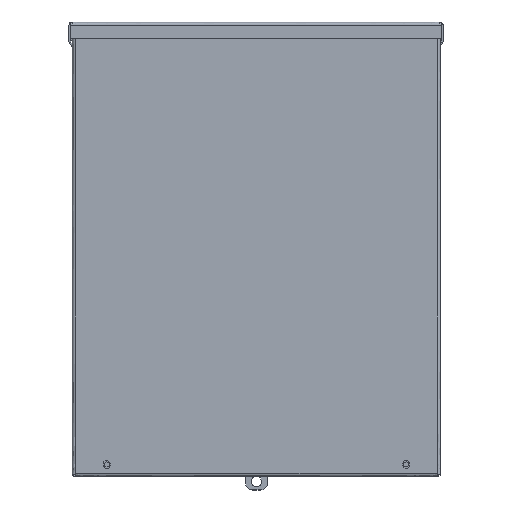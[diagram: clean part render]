
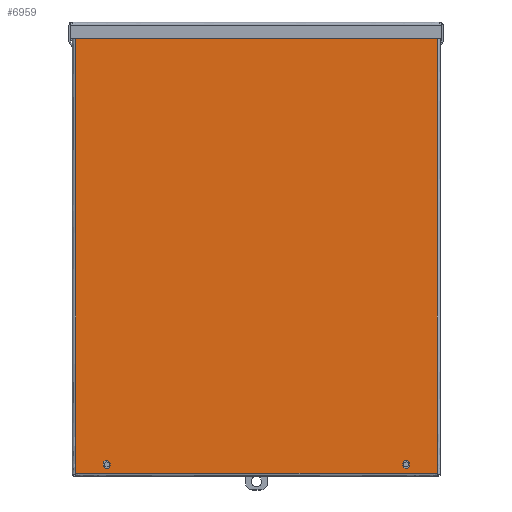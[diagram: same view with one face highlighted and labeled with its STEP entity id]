
A CAD part, top view. The second image highlights one B-rep face of the part: STEP entity #6959.
In plain terms, the highlighted free-form (B-spline) face has degree [1, 1] with [2, 2] control points.
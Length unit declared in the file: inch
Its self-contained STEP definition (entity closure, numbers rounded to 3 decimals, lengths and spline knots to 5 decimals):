
#6174=CARTESIAN_POINT('V71',(0.9855,-0.055,
   14.622));
#6175=VERTEX_POINT('V71',#6174);
#6183=CARTESIAN_POINT('V74',(1.2045,-0.055,
   14.622));
#6184=VERTEX_POINT('V74',#6183);
#6185=CARTESIAN_POINT('E88',(1.2045,-0.055,
   14.622));
#6186=CARTESIAN_POINT('E88',(1.2045,-0.055,
   14.5125));
#6187=CARTESIAN_POINT('E88',(1.095,-0.055,
   14.5125));
#6188=CARTESIAN_POINT('E88',(0.9855,-0.055,
   14.5125));
#6189=CARTESIAN_POINT('E88',(0.9855,-0.055,
   14.622));
#6197=(BOUNDED_CURVE()B_SPLINE_CURVE(2,(#6185,#6186,#6187,#6188,
   #6189),.CIRCULAR_ARC.,.F.,.U.)B_SPLINE_CURVE_WITH_KNOTS((3,2,3),
   (0.0,0.5,1.0),.UNSPECIFIED.)CURVE()
   GEOMETRIC_REPRESENTATION_ITEM()RATIONAL_B_SPLINE_CURVE((1.0,
   0.707,1.0,0.707,1.0))REPRESENTATION_ITEM(
   'E88'));
#6198=EDGE_CURVE('E88',#6184,#6175,#6197,.T.);
#6231=CARTESIAN_POINT('V73',(1.2045,-0.055,
   14.684));
#6232=VERTEX_POINT('V73',#6231);
#6233=CARTESIAN_POINT('E87',(1.2045,-0.055,
   14.684));
#6234=CARTESIAN_POINT('E87',(1.2045,-0.055,
   14.622));
#6235=QUASI_UNIFORM_CURVE('E87',1,(#6233,#6234),.POLYLINE_FORM.,.F.,
   .U.);
#6236=EDGE_CURVE('E87',#6232,#6184,#6235,.T.);
#6272=CARTESIAN_POINT('V72',(0.9855,-0.055,
   14.684));
#6273=VERTEX_POINT('V72',#6272);
#6274=CARTESIAN_POINT('E86',(0.9855,-0.055,
   14.684));
#6275=CARTESIAN_POINT('E86',(0.9855,-0.055,
   14.7935));
#6276=CARTESIAN_POINT('E86',(1.095,-0.055,
   14.7935));
#6277=CARTESIAN_POINT('E86',(1.2045,-0.055,
   14.7935));
#6278=CARTESIAN_POINT('E86',(1.2045,-0.055,
   14.684));
#6286=(BOUNDED_CURVE()B_SPLINE_CURVE(2,(#6274,#6275,#6276,#6277,
   #6278),.CIRCULAR_ARC.,.F.,.U.)B_SPLINE_CURVE_WITH_KNOTS((3,2,3),
   (0.0,0.5,1.0),.UNSPECIFIED.)CURVE()
   GEOMETRIC_REPRESENTATION_ITEM()RATIONAL_B_SPLINE_CURVE((1.0,
   0.707,1.0,0.707,1.0))REPRESENTATION_ITEM(
   'E86'));
#6287=EDGE_CURVE('E86',#6273,#6232,#6286,.T.);
#6320=CARTESIAN_POINT('E85',(0.9855,-0.055,
   14.622));
#6321=CARTESIAN_POINT('E85',(0.9855,-0.055,
   14.684));
#6322=QUASI_UNIFORM_CURVE('E85',1,(#6320,#6321),.POLYLINE_FORM.,.F.,
   .U.);
#6323=EDGE_CURVE('E85',#6175,#6273,#6322,.T.);
#6352=CARTESIAN_POINT('V67',(11.2045,-0.055,
   14.684));
#6353=VERTEX_POINT('V67',#6352);
#6361=CARTESIAN_POINT('V70',(10.9855,-0.055,
   14.684));
#6362=VERTEX_POINT('V70',#6361);
#6363=CARTESIAN_POINT('E84',(10.9855,-0.055,
   14.684));
#6364=CARTESIAN_POINT('E84',(10.9855,-0.055,
   14.7935));
#6365=CARTESIAN_POINT('E84',(11.095,-0.055,
   14.7935));
#6366=CARTESIAN_POINT('E84',(11.2045,-0.055,
   14.7935));
#6367=CARTESIAN_POINT('E84',(11.2045,-0.055,
   14.684));
#6375=(BOUNDED_CURVE()B_SPLINE_CURVE(2,(#6363,#6364,#6365,#6366,
   #6367),.CIRCULAR_ARC.,.F.,.U.)B_SPLINE_CURVE_WITH_KNOTS((3,2,3),
   (0.0,0.5,1.0),.UNSPECIFIED.)CURVE()
   GEOMETRIC_REPRESENTATION_ITEM()RATIONAL_B_SPLINE_CURVE((1.0,
   0.707,1.0,0.707,1.0))REPRESENTATION_ITEM(
   'E84'));
#6376=EDGE_CURVE('E84',#6362,#6353,#6375,.T.);
#6409=CARTESIAN_POINT('V69',(10.9855,-0.055,
   14.622));
#6410=VERTEX_POINT('V69',#6409);
#6411=CARTESIAN_POINT('E83',(10.9855,-0.055,
   14.622));
#6412=CARTESIAN_POINT('E83',(10.9855,-0.055,
   14.684));
#6413=QUASI_UNIFORM_CURVE('E83',1,(#6411,#6412),.POLYLINE_FORM.,.F.,
   .U.);
#6414=EDGE_CURVE('E83',#6410,#6362,#6413,.T.);
#6450=CARTESIAN_POINT('V68',(11.2045,-0.055,
   14.622));
#6451=VERTEX_POINT('V68',#6450);
#6452=CARTESIAN_POINT('E82',(11.2045,-0.055,
   14.622));
#6453=CARTESIAN_POINT('E82',(11.2045,-0.055,
   14.5125));
#6454=CARTESIAN_POINT('E82',(11.095,-0.055,
   14.5125));
#6455=CARTESIAN_POINT('E82',(10.9855,-0.055,
   14.5125));
#6456=CARTESIAN_POINT('E82',(10.9855,-0.055,
   14.622));
#6464=(BOUNDED_CURVE()B_SPLINE_CURVE(2,(#6452,#6453,#6454,#6455,
   #6456),.CIRCULAR_ARC.,.F.,.U.)B_SPLINE_CURVE_WITH_KNOTS((3,2,3),
   (0.0,0.5,1.0),.UNSPECIFIED.)CURVE()
   GEOMETRIC_REPRESENTATION_ITEM()RATIONAL_B_SPLINE_CURVE((1.0,
   0.707,1.0,0.707,1.0))REPRESENTATION_ITEM(
   'E82'));
#6465=EDGE_CURVE('E82',#6451,#6410,#6464,.T.);
#6498=CARTESIAN_POINT('E81',(11.2045,-0.055,
   14.684));
#6499=CARTESIAN_POINT('E81',(11.2045,-0.055,
   14.622));
#6500=QUASI_UNIFORM_CURVE('E81',1,(#6498,#6499),.POLYLINE_FORM.,.F.,
   .U.);
#6501=EDGE_CURVE('E81',#6353,#6451,#6500,.T.);
#6856=CARTESIAN_POINT('V44',(0.06,-0.055,
   14.945));
#6857=VERTEX_POINT('V44',#6856);
#6894=CARTESIAN_POINT('V45',(0.06,-0.055,
   0.));
#6895=VERTEX_POINT('V45',#6894);
#6896=CARTESIAN_POINT('E52',(0.06,-0.055,
   0.));
#6897=CARTESIAN_POINT('E52',(0.06,-0.055,
   14.945));
#6898=QUASI_UNIFORM_CURVE('E52',1,(#6896,#6897),.POLYLINE_FORM.,.F.,
   .U.);
#6899=EDGE_CURVE('E52',#6895,#6857,#6898,.T.);
#6920=CARTESIAN_POINT('F21',(12.13,-0.055,
   0.));
#6921=CARTESIAN_POINT('F21',(12.13,-0.055,
   14.945));
#6922=CARTESIAN_POINT('F21',(0.06,-0.055,
   0.));
#6923=CARTESIAN_POINT('F21',(0.06,-0.055,
   14.945));
#6924=B_SPLINE_SURFACE_WITH_KNOTS('F21',1,1,((#6920,#6922),(#6921,
   #6923)),.PLANE_SURF.,.F.,.F.,.U.,(2,2),(2,2),(
   0.0001,1.23805),(0.0001,
   0.9999),.UNSPECIFIED.);
#6925=CARTESIAN_POINT('V41',(12.13,-0.055,
   0.));
#6926=VERTEX_POINT('V41',#6925);
#6927=CARTESIAN_POINT('E80',(0.06,-0.055,
   0.0));
#6928=CARTESIAN_POINT('E80',(12.13,-0.055,
   0.0));
#6929=QUASI_UNIFORM_CURVE('E80',1,(#6927,#6928),.POLYLINE_FORM.,.F.,
   .U.);
#6930=EDGE_CURVE('E80',#6895,#6926,#6929,.T.);
#6931=ORIENTED_EDGE('E80',*,*,#6930,.T.);
#6932=CARTESIAN_POINT('V40',(12.13,-0.055,
   14.945));
#6933=VERTEX_POINT('V40',#6932);
#6934=CARTESIAN_POINT('E48',(12.13,-0.055,
   14.945));
#6935=CARTESIAN_POINT('E48',(12.13,-0.055,
   0.));
#6936=QUASI_UNIFORM_CURVE('E48',1,(#6934,#6935),.POLYLINE_FORM.,.F.,
   .U.);
#6937=EDGE_CURVE('E48',#6933,#6926,#6936,.T.);
#6938=ORIENTED_EDGE('E48',*,*,#6937,.F.);
#6939=CARTESIAN_POINT('E60',(0.06,-0.055,
   14.945));
#6940=CARTESIAN_POINT('E60',(12.13,-0.055,
   14.945));
#6941=QUASI_UNIFORM_CURVE('E60',1,(#6939,#6940),.POLYLINE_FORM.,.F.,
   .U.);
#6942=EDGE_CURVE('E60',#6857,#6933,#6941,.T.);
#6943=ORIENTED_EDGE('E60',*,*,#6942,.F.);
#6944=ORIENTED_EDGE('E52',*,*,#6899,.F.);
#6945=EDGE_LOOP('F21',(#6931,#6938,#6943,#6944));
#6946=FACE_OUTER_BOUND('F21',#6945,.T.);
#6947=ORIENTED_EDGE('E81',*,*,#6501,.T.);
#6948=ORIENTED_EDGE('E82',*,*,#6465,.T.);
#6949=ORIENTED_EDGE('E83',*,*,#6414,.T.);
#6950=ORIENTED_EDGE('E84',*,*,#6376,.T.);
#6951=EDGE_LOOP('F21',(#6947,#6948,#6949,#6950));
#6952=FACE_BOUND('F21',#6951,.T.);
#6953=ORIENTED_EDGE('E85',*,*,#6323,.T.);
#6954=ORIENTED_EDGE('E86',*,*,#6287,.T.);
#6955=ORIENTED_EDGE('E87',*,*,#6236,.T.);
#6956=ORIENTED_EDGE('E88',*,*,#6198,.T.);
#6957=EDGE_LOOP('F21',(#6953,#6954,#6955,#6956));
#6958=FACE_BOUND('F21',#6957,.T.);
#6959=ADVANCED_FACE('F21',(#6946,#6952,#6958),#6924,.T.);
